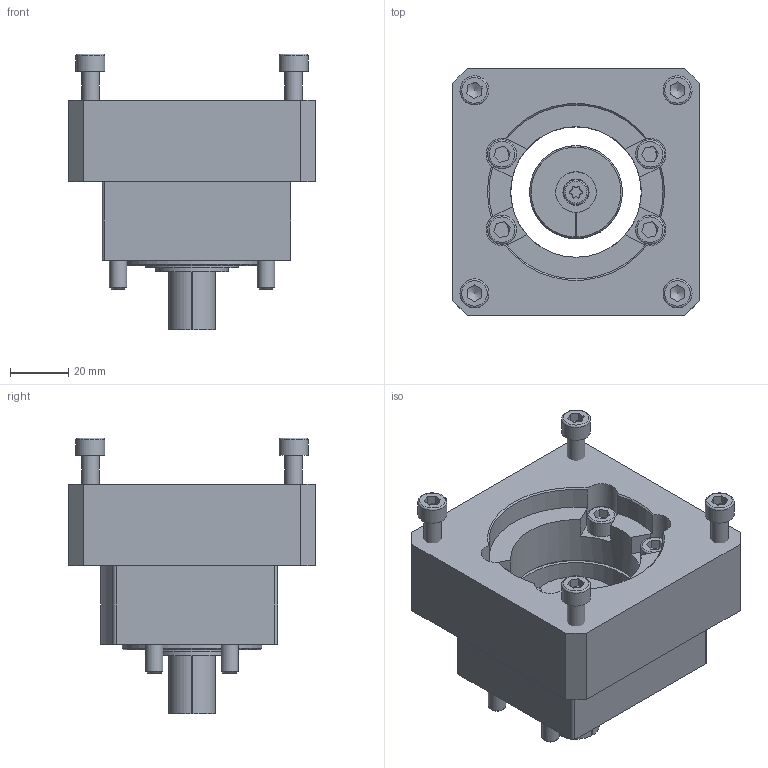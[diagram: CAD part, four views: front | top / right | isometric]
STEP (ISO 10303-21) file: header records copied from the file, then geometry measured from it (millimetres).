
FILE_DESCRIPTION(/* description */ (''),/* implementation_level */ '2;1');
FILE_NAME(/* name */ 'C:\Vault\Designs\J0\J11511.stp',/* time_stamp */ '2023-09-14T17:18:12+09:00',/* author */ ('jp6u7013'),/* organization */ (''),/* preprocessor_version */ 'ST-DEVELOPER v18.1',/* originating_system */ 'Autodesk Inventor 2021',/* authorisation */ '');
FILE_SCHEMA (('AUTOMOTIVE_DESIGN { 1 0 10303 214 3 1 1 }'));
Length unit declared in the file: millimetre
Products named in the file (7): J11511; 1345949 EAMK-A-N48-48C ; 1345949 EAMK-A-N48-48C(1O) ; 1377840 EAMD-32-32-14-16x20; J11512; JIS B 1176 - M6 x 50; JIS B 1176 - M6 x 20
Assembly tree (12 placements, depth 3):
  J11511
    1345949 EAMK-A-N48-48C 
      1345949 EAMK-A-N48-48C(1O) 
    1377840 EAMD-32-32-14-16x20
    J11512
    JIS B 1176 - M6 x 50  x4
    JIS B 1176 - M6 x 20  x4
Bounding box: 85 x 85 x 95.1 mm (x, y, z)
Volume: 233429.5 mm3; surface area: 65663.4 mm2
Topology: 11 solids, 11 shells, 332 faces, 870 edges, 575 vertices
Faces by surface type: plane 172, cylinder 112, cone 30, torus 18
Full cylindrical faces by diameter (mm): 3.242 x1, 4 x1, 4.917 x4, 6 x8, 6.6 x8, 7 x1, 7.2 x1, 8.5 x1, 9 x1, 10 x8, 14.2 x2, 25 x1, 32 x2, 45 x2, 48 x3
Entity records: 8166 total; most frequent: CARTESIAN_POINT 1520, DIRECTION 1412, ORIENTED_EDGE 1304, EDGE_CURVE 652, AXIS2_PLACEMENT_3D 541, VERTEX_POINT 431, LINE 330, VECTOR 330
